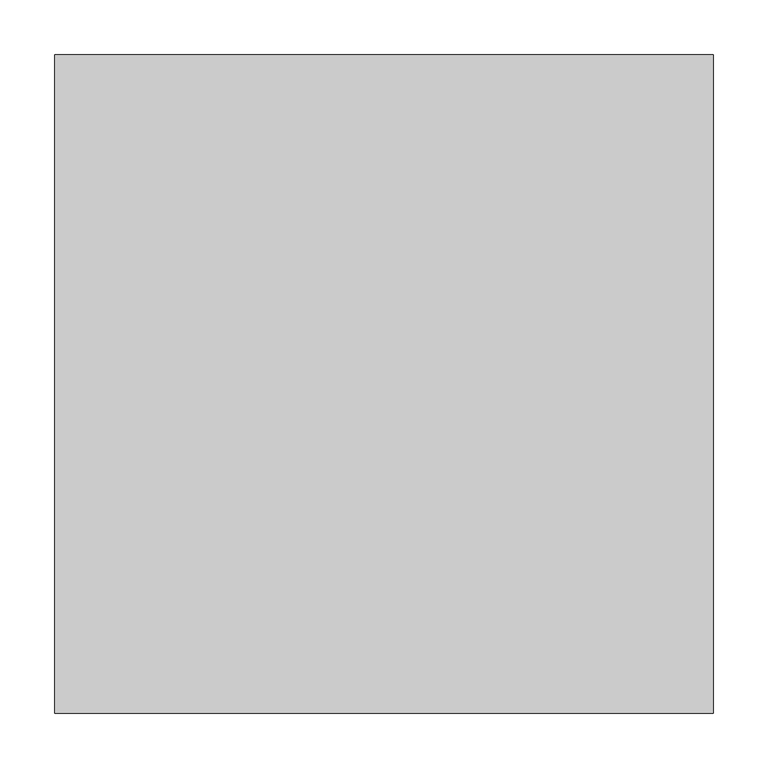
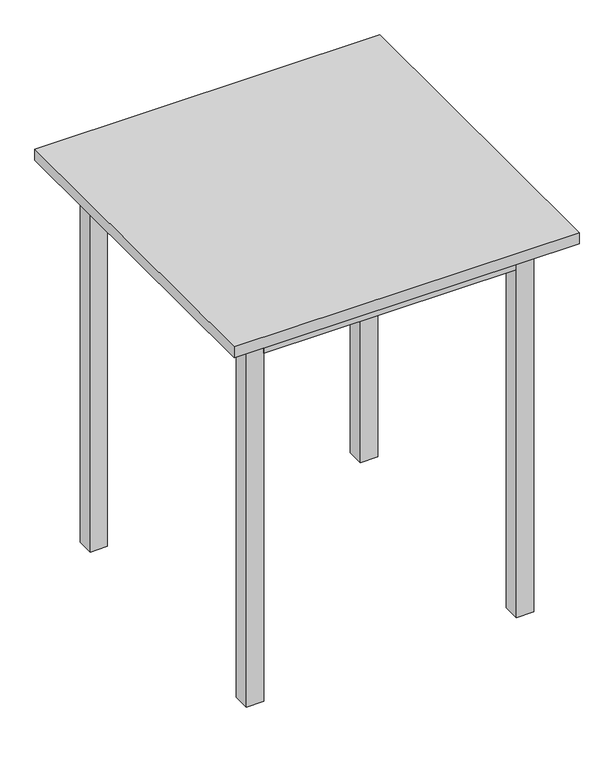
"""IFC4 building model written with IfcOpenShell, lengths in millimetres: furniture geometry, 2.5 Mesa cuadrada 60x60 : 2.5 Mesa cuadrada 60x60."""

from ifc_helpers import new_model, si_unit, frame, origin, origin_with_axes, place, context, project, spatial, polyline, outline, extrude, source, transform, mapped, element, save


def furniture_e56d43f1(model_context):
    return source(origin(), model_context, "Body", "SweptSolid", [
        extrude(outline(polyline([(249.9998808, 250.0077784), (249.9998808, 219.9784815), (219.9705839, 219.9784815), (219.9705839, 250.0077784), (249.9998808, 250.0077784)])), origin_with_axes(), (0.0, 0.0, 1.0), 689.9999976),
        extrude(outline(polyline([(-219.9707031, 250.0077784), (-219.9707031, 219.9784815), (-250.0, 219.9784815), (-250.0, 250.0077784), (-219.9707031, 250.0077784)])), origin_with_axes(), (0.0, 0.0, 1.0), 689.9999976),
        extrude(outline(polyline([(-219.9555039, -220.0531065), (-219.9555039, -250.0824034), (-249.9848008, -250.0824034), (-249.9848008, -220.0531065), (-219.9555039, -220.0531065)])), origin_with_axes(), (0.0, 0.0, 1.0), 689.9999976),
        extrude(outline(polyline([(250.01508, -220.0530916), (250.01508, -250.0823885), (219.9857831, -250.0823885), (219.9857831, -220.0530916), (250.01508, -220.0530916)])), origin_with_axes(), (0.0, 0.0, 1.0), 689.9999976),
        extrude(outline(polyline([(-219.9707031, 250.0077784), (219.9705839, 250.0077784), (219.9705839, 220.0318873), (-219.9707031, 220.0318873), (-219.9707031, 250.0077784)])), frame((0.0, 0.0, 639.9968266), z_axis=(0.0, 0.0, 1.0), x_axis=(1.0, 0.0, 0.0)), (0.0, 0.0, 1.0), 50.003171),
        extrude(outline(polyline([(-219.970718, 219.9784517), (-219.970718, -220.0149447), (-250.0, -220.0149447), (-250.0, 219.9784517), (-219.970718, 219.9784517)])), frame((0.0, 0.0, 639.996767), z_axis=(0.0, 0.0, 1.0), x_axis=(1.0, 0.0, 0.0)), (0.0, 0.0, 1.0), 50.0032306),
        extrude(outline(polyline([(-219.9555039, -250.0824034), (-219.9555039, -220.0530916), (219.9857831, -220.0530916), (219.9857831, -250.0824034), (-219.9555039, -250.0824034)])), frame((0.0, 0.0, 639.996767), z_axis=(0.0, 0.0, 1.0), x_axis=(1.0, 0.0, 0.0)), (0.0, 0.0, 1.0), 50.0032306),
        extrude(outline(polyline([(249.9998808, 219.9784815), (249.9998808, -220.0530916), (219.9857831, -220.0530916), (219.9857831, 219.9784815), (249.9998808, 219.9784815)])), frame((0.0, 0.0, 639.9968266), z_axis=(0.0, 0.0, 1.0), x_axis=(1.0, 0.0, 0.0)), (0.0, 0.0, 1.0), 50.003171),
        extrude(outline(polyline([(-300.0000119, -300.0000119), (-300.0000119, 300.0000119), (300.0000119, 300.0000119), (300.0000119, -300.0000119), (-300.0000119, -300.0000119)])), frame((0.0, 0.0, 689.9999976), z_axis=(0.0, 0.0, 1.0), x_axis=(1.0, 0.0, 0.0)), (0.0, 0.0, 1.0), 19.9999809),
    ])


if __name__ == "__main__":
    model = new_model("IFC4")
    model_context = context("Model", 3, world=origin())
    ifc_project = project(units=[si_unit("LENGTHUNIT", "METRE", prefix="MILLI")], contexts=[model_context])
    site = spatial("IfcSite", under=ifc_project)
    building = spatial("IfcBuilding", under=site)
    placement = place(None, origin())
    furniture_shape = furniture_e56d43f1(model_context)
    element("IfcFurniture", 1, ObjectType="2.5 Mesa cuadrada 60x60 : 2.5 Mesa cuadrada 60x60", at=placement, inside=building, context=model_context, shape_type="MappedRepresentation", body=[
        mapped(furniture_shape, transform((0.0, 0.0, 0.0), x_axis=(1.0, 0.0, 0.0), y_axis=(0.0, 1.0, 0.0), z_axis=(0.0, 0.0, 1.0))),
    ])
    save(model, "model.ifc")
